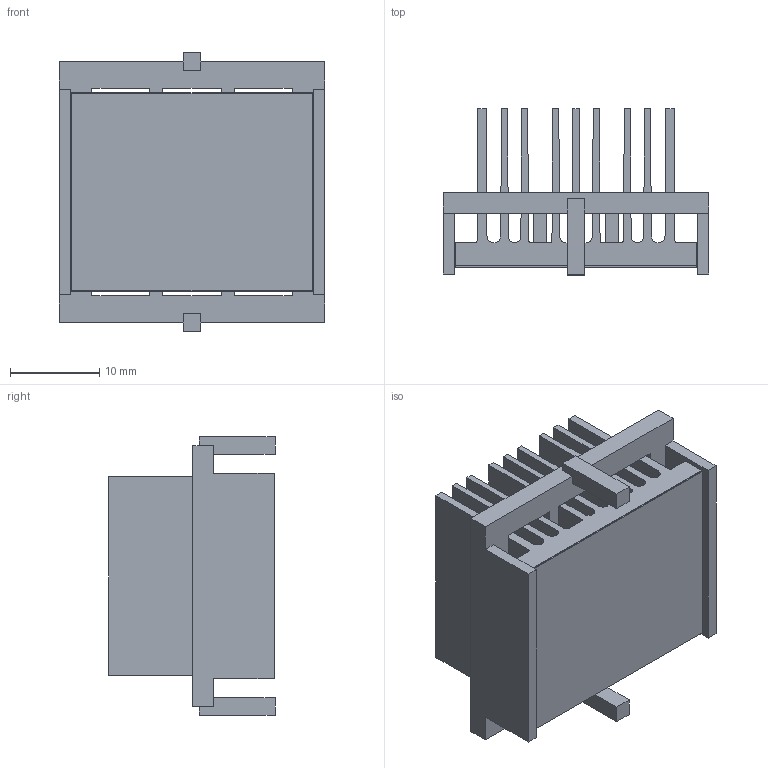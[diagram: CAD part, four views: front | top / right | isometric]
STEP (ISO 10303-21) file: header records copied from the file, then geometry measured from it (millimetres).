
FILE_DESCRIPTION (( 'STEP AP214' ), '1' );
FILE_NAME ('INH27001-18-2.6O.STEP', '2023-02-16T16:10:47', ( '' ), ( '' ), 'SwSTEP 2.0', 'SolidWorks 2020', '' );
FILE_SCHEMA (( 'AUTOMOTIVE_DESIGN' ));
Length unit declared in the file: millimetre
Products named in the file (1): INH27001-18-2.6O
Bounding box: 29.7 x 18.6 x 31.2 mm (x, y, z)
Volume: 5494.7 mm3; surface area: 10955.6 mm2
Topology: 3 solids, 3 shells, 118 faces, 336 edges, 224 vertices
Faces by surface type: plane 100, cylinder 18
Entity records: 5150 total; most frequent: CARTESIAN_POINT 679, ORIENTED_EDGE 672, DIRECTION 610, EDGE_CURVE 336, VECTOR 300, LINE 300, VERTEX_POINT 224, AXIS2_PLACEMENT_3D 155
